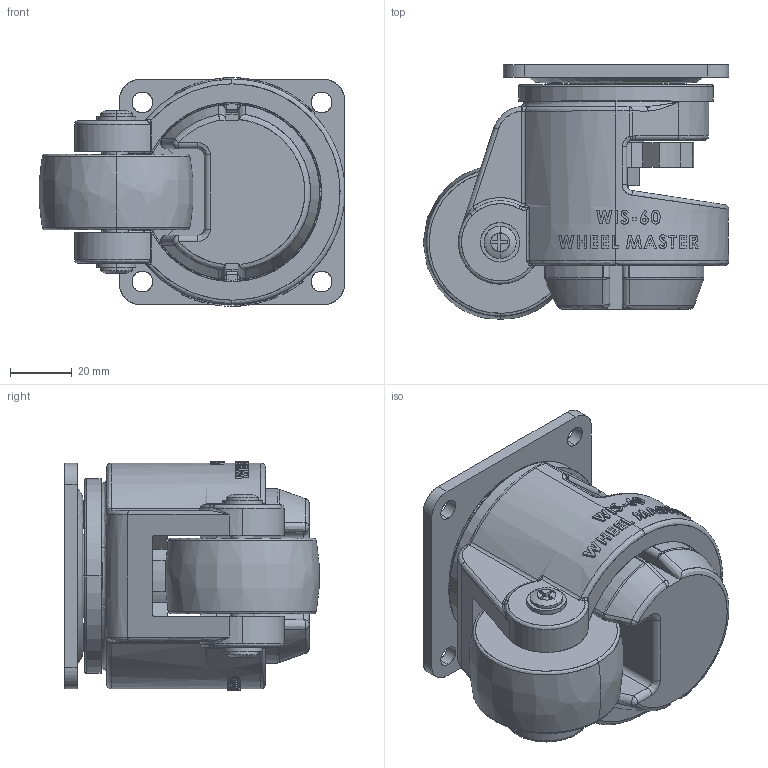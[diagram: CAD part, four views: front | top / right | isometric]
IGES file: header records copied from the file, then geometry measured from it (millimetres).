
Start section: SolidWorks IGES file using analytic representation for surfaces
Global section: file name: 2HH:\辫屈霖累诀\快老墨促肺弊(NEW)\权其捞瘤诀肺靛侩3D\WIS60FP.IGS; native system: SolidWorks 2010; preprocessor: SolidWorks 2010; author: Administrator; date: 110129.150214; units: millimetre
Bounding box: 98.88 x 82.38 x 74 mm (x, y, z)
Surface area: 72157.9 mm2 (no closed solid volume)
Topology: 0 solids, 0 shells, 741 faces, 9326 edges, 9304 vertices
Faces by surface type: bspline 521, revolution 220
